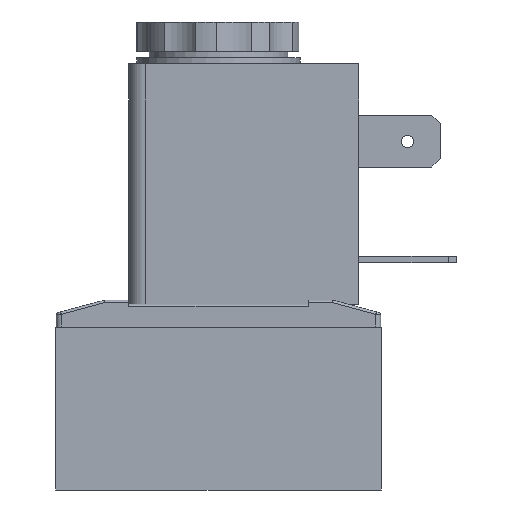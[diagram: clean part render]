
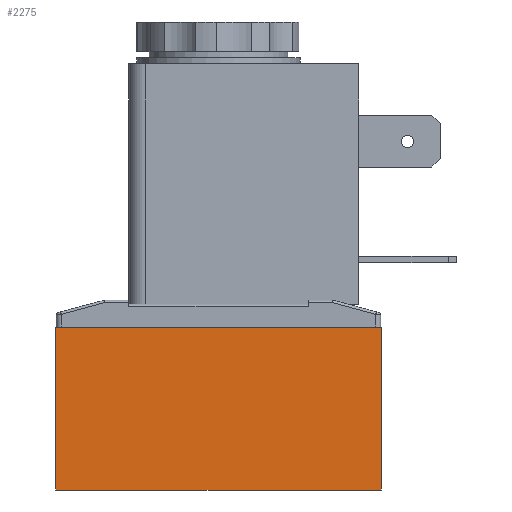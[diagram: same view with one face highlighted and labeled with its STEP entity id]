
A CAD part, front view. The second image highlights one B-rep face of the part: STEP entity #2275.
In plain terms, the highlighted planar face has unit normal (0, -1, 0).
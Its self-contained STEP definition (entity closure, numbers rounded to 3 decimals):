
#361 = ORIENTED_EDGE ( 'NONE', *, *, #1571, .T. ) ;
#362 = ORIENTED_EDGE ( 'NONE', *, *, #1802, .F. ) ;
#363 = ORIENTED_EDGE ( 'NONE', *, *, #1799, .F. ) ;
#364 = ORIENTED_EDGE ( 'NONE', *, *, #1807, .T. ) ;
#1571 = EDGE_CURVE ( 'NONE', #3156, #3155, #4810, .T. ) ;
#1799 = EDGE_CURVE ( 'NONE', #3161, #3162, #5118, .T. ) ;
#1802 = EDGE_CURVE ( 'NONE', #3162, #3155, #5124, .T. ) ;
#1807 = EDGE_CURVE ( 'NONE', #3161, #3156, #5129, .T. ) ;
#2275 = ADVANCED_FACE ( 'NONE', ( #6817 ), #8220, .T. ) ;
#2864 = EDGE_LOOP ( 'NONE', ( #361, #362, #363, #364 ) ) ;
#3155 = VERTEX_POINT ( 'NONE', #10033 ) ;
#3156 = VERTEX_POINT ( 'NONE', #10034 ) ;
#3161 = VERTEX_POINT ( 'NONE', #10039 ) ;
#3162 = VERTEX_POINT ( 'NONE', #10040 ) ;
#4805 = VECTOR ( 'NONE', #5247, 1000. ) ;
#4810 = LINE ( 'NONE', #5240, #4805 ) ;
#5118 = LINE ( 'NONE', #5952, #5119 ) ;
#5119 = VECTOR ( 'NONE', #5953, 1000. ) ;
#5124 = LINE ( 'NONE', #5958, #5125 ) ;
#5125 = VECTOR ( 'NONE', #5959, 1000. ) ;
#5129 = LINE ( 'NONE', #5971, #5132 ) ;
#5132 = VECTOR ( 'NONE', #5972, 1000. ) ;
#5240 = CARTESIAN_POINT ( 'NONE',  ( 20., -12.5, 20. ) ) ;
#5247 = DIRECTION ( 'NONE',  ( -1., 0., 0. ) ) ;
#5952 = CARTESIAN_POINT ( 'NONE',  ( 20., -12.5, 0. ) ) ;
#5953 = DIRECTION ( 'NONE',  ( -1., 0., 0. ) ) ;
#5958 = CARTESIAN_POINT ( 'NONE',  ( -20., -12.5, 0. ) ) ;
#5959 = DIRECTION ( 'NONE',  ( 0., 0., 1. ) ) ;
#5971 = CARTESIAN_POINT ( 'NONE',  ( 20., -12.5, 0. ) ) ;
#5972 = DIRECTION ( 'NONE',  ( 0., 0., 1. ) ) ;
#6817 = FACE_OUTER_BOUND ( 'NONE', #2864, .T. ) ;
#7349 = AXIS2_PLACEMENT_3D ( 'NONE', #8219, #8226, #8227 ) ;
#8219 = CARTESIAN_POINT ( 'NONE',  ( 20., -12.5, 0. ) ) ;
#8220 = PLANE ( 'NONE',  #7349 ) ;
#8226 = DIRECTION ( 'NONE',  ( 0., -1., 0. ) ) ;
#8227 = DIRECTION ( 'NONE',  ( 0.707, 0., 0.707 ) ) ;
#10033 = CARTESIAN_POINT ( 'NONE',  ( -20., -12.5, 20. ) ) ;
#10034 = CARTESIAN_POINT ( 'NONE',  ( 20., -12.5, 20. ) ) ;
#10039 = CARTESIAN_POINT ( 'NONE',  ( 20., -12.5, 0. ) ) ;
#10040 = CARTESIAN_POINT ( 'NONE',  ( -20., -12.5, 0. ) ) ;
